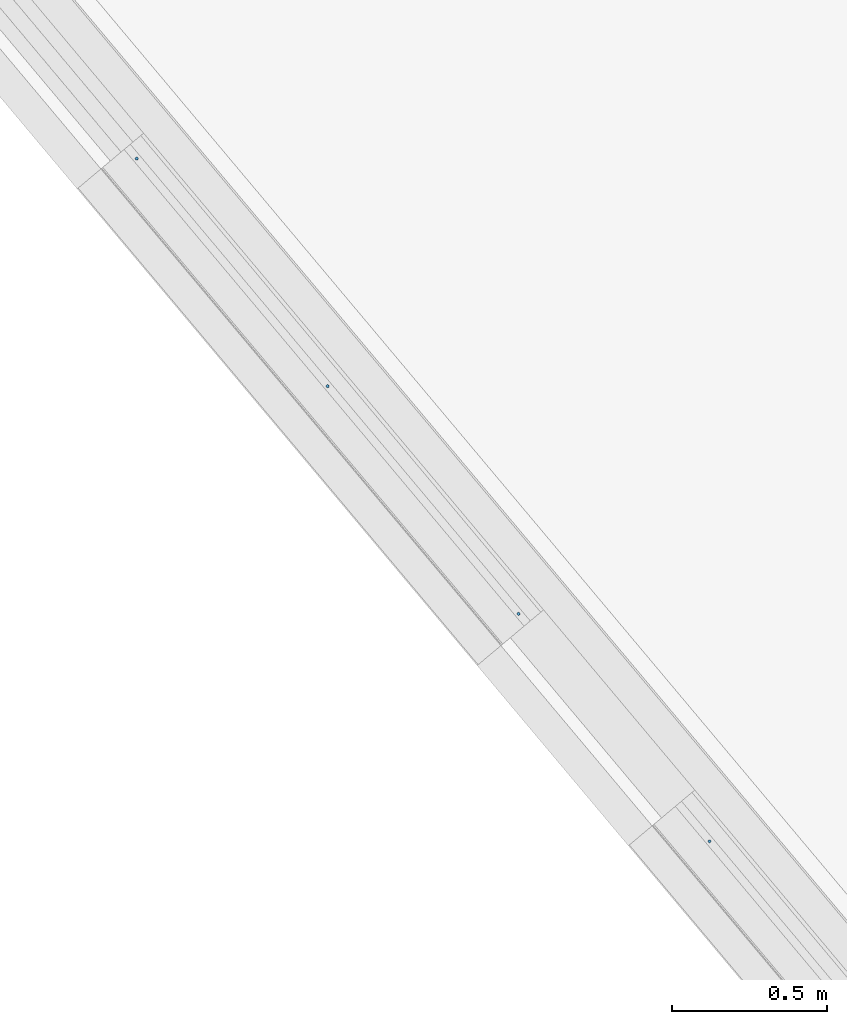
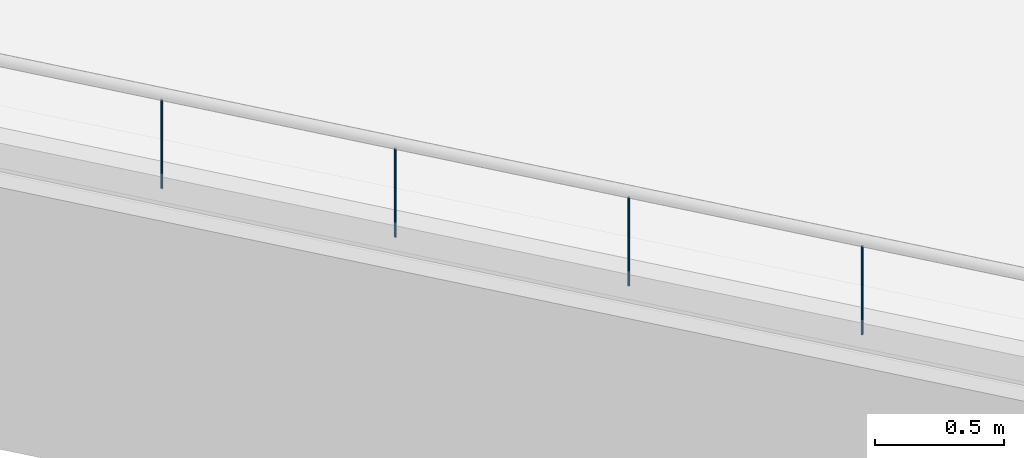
# One storey, part 10 of 321: 4 members, 1 element without a shape of its own.
"""IFC2X3 building model written with IfcOpenShell, lengths in millimetres."""

from ifc_helpers import new_model, entity, si_unit, converted_unit, derived_unit, money_unit, direction, frame, origin_with_axes, place, context, subcontext, project, spatial, faceted_brep, source, transform, mapped, material, type_object, type_shapes, element, aggregate, save


model = new_model("IFC2X3")

# Units and contexts
model_context = context("Model", 3, precision=0.01, world=origin_with_axes(), true_north=direction((0.0, 1.0)))
plan_context = context("Plan", 3, precision=0.01, world=origin_with_axes(), true_north=direction((0.0, 1.0)))
body_context = subcontext(model_context, "Body", "Model", "MODEL_VIEW")
ifc_project = project(units=[si_unit("LENGTHUNIT", "METRE", prefix="MILLI"), si_unit("AREAUNIT", "SQUARE_METRE"), si_unit("VOLUMEUNIT", "CUBIC_METRE"), converted_unit("PLANEANGLEUNIT", "DEGREE", entity("IfcPlaneAngleMeasure", 0.0174532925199), si_unit("PLANEANGLEUNIT", "RADIAN"), dimensions=[0, 0, 0, 0, 0, 0, 0]), money_unit("EUR"), converted_unit("TIMEUNIT", "Year", entity("IfcTimeMeasure", 31556926.0), si_unit("TIMEUNIT", "SECOND"), dimensions=[0, 0, 1, 0, 0, 0, 0]), si_unit("MASSUNIT", "GRAM", prefix="KILO"), si_unit("THERMODYNAMICTEMPERATUREUNIT", "DEGREE_CELSIUS"), si_unit("LUMINOUSINTENSITYUNIT", "LUMEN"), si_unit("ENERGYUNIT", "JOULE", prefix="MEGA"), derived_unit("THERMALCONDUCTANCEUNIT", [(si_unit("POWERUNIT", "WATT"), 1), (si_unit("LENGTHUNIT", "METRE"), -1), (si_unit("THERMODYNAMICTEMPERATUREUNIT", "KELVIN"), -1)]), derived_unit("SPECIFICHEATCAPACITYUNIT", [(si_unit("ENERGYUNIT", "JOULE"), 1), (si_unit("MASSUNIT", "GRAM", prefix="KILO"), -1), (si_unit("THERMODYNAMICTEMPERATUREUNIT", "KELVIN"), -1)]), derived_unit("MASSDENSITYUNIT", [(si_unit("MASSUNIT", "GRAM", prefix="KILO"), 1), (si_unit("VOLUMEUNIT", "CUBIC_METRE"), -1)])], contexts=[model_context, plan_context])

# Site, building, storey
site_placement = place(None, origin_with_axes())
site = spatial("IfcSite", under=ifc_project, at=site_placement, Name="Fortuinstraat Woensdrecht", CompositionType="ELEMENT")
building_placement = place(site_placement, origin_with_axes())
building = spatial("IfcBuilding", under=site, at=building_placement, Name="IKC Fortuna", CompositionType="ELEMENT")
storey_placement = place(building_placement, frame((0.0, 0.0, 4000.0), z_axis=(0.0, 0.0, 1.0), x_axis=(1.0, 0.0, 0.0)))
storey = spatial("IfcBuildingStorey", under=building, at=storey_placement, Name="01 eerste verdieping", CompositionType="ELEMENT", Elevation=4000.0)

# Railing, members
railing_type = type_object("IfcRailingType", Name="Railing Type", PredefinedType="NOTDEFINED")
railing_placement = place(storey_placement, frame((4151.56334028, 3601.06192057, 2353.5), z_axis=(0.0, 0.0, 1.0), x_axis=(1.0, 0.0, 0.0)))
railing = element("IfcRailing", 1, at=railing_placement, inside=storey, type_object=railing_type, Name="34_Reling_Reling vide", PredefinedType="NOTDEFINED")
ifc_material = material(Name="Metaal - Staal AFW")
member_type = type_object("IfcMemberType", Name="IfcMember", PredefinedType="MEMBER")
shared_shape = source(origin_with_axes(), body_context, "Body", "Brep", [
    faceted_brep([(0.0, -5.0, 0.0), (0.868240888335, -4.92403876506, 0.0), (0.868240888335, -4.92403876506, 418.5), (0.0, -5.0, 418.5), (-0.868240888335, -4.92403876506, 0.0), (-1.71010071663, -4.69846310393, 0.0), (-2.5, -4.33012701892, 0.0), (-3.21393804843, -3.83022221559, 0.0), (-3.83022221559, -3.21393804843, 0.0), (-4.33012701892, -2.5, 0.0), (-4.69846310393, -1.71010071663, 0.0), (-4.92403876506, -0.868240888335, 0.0), (-5.0, 0.0, 0.0), (-4.92403876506, 0.868240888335, 0.0), (-4.69846310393, 1.71010071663, 0.0), (-4.33012701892, 2.5, 0.0), (-3.83022221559, 3.21393804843, 0.0), (-3.21393804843, 3.83022221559, 0.0), (-2.5, 4.33012701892, 0.0), (-1.71010071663, 4.69846310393, 0.0), (-0.868240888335, 4.92403876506, 0.0), (0.0, 5.0, 0.0), (0.868240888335, 4.92403876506, 0.0), (1.71010071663, 4.69846310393, 0.0), (2.5, 4.33012701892, 0.0), (3.21393804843, 3.83022221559, 0.0), (3.83022221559, 3.21393804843, 0.0), (4.33012701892, 2.5, 0.0), (4.69846310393, 1.71010071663, 0.0), (4.92403876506, 0.868240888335, 0.0), (5.0, 0.0, 0.0), (4.92403876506, -0.868240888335, 0.0), (4.69846310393, -1.71010071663, 0.0), (4.33012701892, -2.5, 0.0), (3.83022221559, -3.21393804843, 0.0), (3.21393804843, -3.83022221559, 0.0), (2.5, -4.33012701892, 0.0), (1.71010071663, -4.69846310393, 0.0), (1.71010071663, -4.69846310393, 418.5), (2.5, -4.33012701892, 418.5), (3.21393804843, -3.83022221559, 418.5), (3.83022221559, -3.21393804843, 418.5), (4.33012701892, -2.5, 418.5), (4.69846310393, -1.71010071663, 418.5), (4.92403876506, -0.868240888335, 418.5), (5.0, 0.0, 418.5), (4.92403876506, 0.868240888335, 418.5), (4.69846310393, 1.71010071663, 418.5), (4.33012701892, 2.5, 418.5), (3.83022221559, 3.21393804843, 418.5), (3.21393804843, 3.83022221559, 418.5), (2.5, 4.33012701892, 418.5), (1.71010071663, 4.69846310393, 418.5), (0.868240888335, 4.92403876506, 418.5), (0.0, 5.0, 418.5), (-0.868240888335, 4.92403876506, 418.5), (-1.71010071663, 4.69846310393, 418.5), (-2.5, 4.33012701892, 418.5), (-3.21393804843, 3.83022221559, 418.5), (-3.83022221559, 3.21393804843, 418.5), (-4.33012701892, 2.5, 418.5), (-4.69846310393, 1.71010071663, 418.5), (-4.92403876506, 0.868240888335, 418.5), (-5.0, 0.0, 418.5), (-4.92403876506, -0.868240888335, 418.5), (-4.69846310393, -1.71010071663, 418.5), (-4.33012701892, -2.5, 418.5), (-3.83022221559, -3.21393804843, 418.5), (-3.21393804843, -3.83022221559, 418.5), (-2.5, -4.33012701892, 418.5), (-1.71010071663, -4.69846310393, 418.5), (-0.868240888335, -4.92403876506, 418.5)], [[[0, 1, 2, 3]], [[0, 4, 5, 6, 7, 8, 9, 10, 11, 12, 13, 14, 15, 16, 17, 18, 19, 20, 21, 22, 23, 24, 25, 26, 27, 28, 29, 30, 31, 32, 33, 34, 35, 36, 37, 1]], [[1, 37, 38, 2]], [[3, 2, 38, 39, 40, 41, 42, 43, 44, 45, 46, 47, 48, 49, 50, 51, 52, 53, 54, 55, 56, 57, 58, 59, 60, 61, 62, 63, 64, 65, 66, 67, 68, 69, 70, 71]], [[4, 0, 3, 71]], [[5, 4, 71, 70]], [[6, 5, 70, 69]], [[7, 6, 69, 68]], [[8, 7, 68, 67]], [[9, 8, 67, 66]], [[10, 9, 66, 65]], [[11, 10, 65, 64]], [[12, 11, 64, 63]], [[13, 12, 63, 62]], [[14, 13, 62, 61]], [[15, 14, 61, 60]], [[16, 15, 60, 59]], [[17, 16, 59, 58]], [[18, 17, 58, 57]], [[19, 18, 57, 56]], [[20, 19, 56, 55]], [[21, 20, 55, 54]], [[22, 21, 54, 53]], [[23, 22, 53, 52]], [[24, 23, 52, 51]], [[25, 24, 51, 50]], [[26, 25, 50, 49]], [[27, 26, 49, 48]], [[28, 27, 48, 47]], [[29, 28, 47, 46]], [[30, 29, 46, 45]], [[31, 30, 45, 44]], [[32, 31, 44, 43]], [[33, 32, 43, 42]], [[34, 33, 42, 41]], [[35, 34, 41, 40]], [[36, 35, 40, 39]], [[37, 36, 39, 38]]]),
])
type_shapes(member_type, [shared_shape])
member_1_placement = place(railing_placement, frame((-3016.70011298, -5062.43991625, -18.5), z_axis=(0.0, 0.0, 1.0), x_axis=(1.0, 0.0, 0.0)))
member_1 = element("IfcMember", 2, at=member_1_placement, type_object=member_type, material=ifc_material, Name="_Onderdeel_Spijlen-x", ObjectType="MEMBER", context=body_context, shape_type="MappedRepresentation", body=[
    mapped(shared_shape, transform((0.0, 0.0, 0.0), x_axis=(-0.766044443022, -0.642787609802, 0.0), y_axis=(0.642787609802, -0.766044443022, 0.0), z_axis=(0.0, 0.0, 1.0))),
])
member_2_placement = place(railing_placement, frame((-2399.95937748, -5797.44290326, -18.5), z_axis=(0.0, 0.0, 1.0), x_axis=(1.0, 0.0, 0.0)))
member_2 = element("IfcMember", 3, at=member_2_placement, type_object=member_type, material=ifc_material, Name="_Onderdeel_Spijlen-x", ObjectType="MEMBER", context=body_context, shape_type="MappedRepresentation", body=[
    mapped(shared_shape, transform((0.0, 0.0, 0.0), x_axis=(-0.766044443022, -0.642787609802, 0.0), y_axis=(0.642787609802, -0.766044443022, 0.0), z_axis=(0.0, 0.0, 1.0))),
])
member_3_placement = place(railing_placement, frame((-1783.21864198, -6532.44589027, -18.5), z_axis=(0.0, 0.0, 1.0), x_axis=(1.0, 0.0, 0.0)))
member_3 = element("IfcMember", 4, at=member_3_placement, type_object=member_type, material=ifc_material, Name="_Onderdeel_Spijlen-x", ObjectType="MEMBER", context=body_context, shape_type="MappedRepresentation", body=[
    mapped(shared_shape, transform((0.0, 0.0, 0.0), x_axis=(-0.766044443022, -0.642787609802, 0.0), y_axis=(0.642787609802, -0.766044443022, 0.0), z_axis=(0.0, 0.0, 1.0))),
])
member_4_placement = place(railing_placement, frame((-1166.47790648, -7267.44887727, -18.5), z_axis=(0.0, 0.0, 1.0), x_axis=(1.0, 0.0, 0.0)))
member_4 = element("IfcMember", 5, at=member_4_placement, type_object=member_type, material=ifc_material, Name="_Onderdeel_Spijlen-x", ObjectType="MEMBER", context=body_context, shape_type="MappedRepresentation", body=[
    mapped(shared_shape, transform((0.0, 0.0, 0.0), x_axis=(-0.766044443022, -0.642787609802, 0.0), y_axis=(0.642787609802, -0.766044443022, 0.0), z_axis=(0.0, 0.0, 1.0))),
])
aggregate(railing, [member_1, member_2, member_3, member_4])

save(model, "model.ifc")
